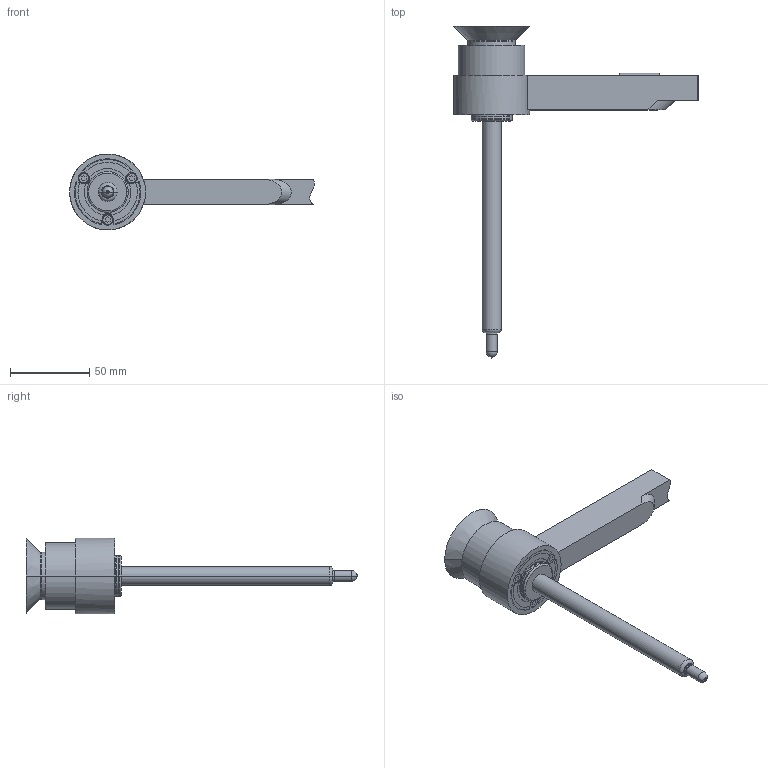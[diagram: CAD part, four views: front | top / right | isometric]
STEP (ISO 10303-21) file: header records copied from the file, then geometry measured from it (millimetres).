
FILE_DESCRIPTION((''),'2;1');
FILE_NAME('M03-160-2Z-10_ASM','2020-04-03T',('benoit'),(''),'PRO/ENGINEER BY PARAMETRIC TECHNOLOGY CORPORATION, 2007450','PRO/ENGINEER BY PARAMETRIC TECHNOLOGY CORPORATION, 2007450','');
FILE_SCHEMA(('CONFIG_CONTROL_DESIGN'));
Length unit declared in the file: millimetre
Products named in the file (12): CM03-160; PM03-F; EM03-P2; RM03-160; RA2Z-M; T2Z-32; BF03219; CAPOT-03219; 32X1_5E; VIS_CHCM4-12; M03-160-2Z-10-POCHE; M03-160-2Z-10_ASM
Assembly tree (13 placements, depth 2):
  M03-160-2Z-10_ASM
    CM03-160
    PM03-F
    EM03-P2
    RM03-160
    RA2Z-M
    T2Z-32
    BF03219
    CAPOT-03219
    32X1_5E
    VIS_CHCM4-12  x3
    M03-160-2Z-10-POCHE
Bounding box: 154.56 x 209.64 x 48 mm (x, y, z)
Volume: 202716.2 mm3; surface area: 68221.5 mm2
Topology: 13 solids, 13 shells, 481 faces, 1181 edges, 732 vertices
Faces by surface type: cylinder 173, plane 136, cone 84, torus 61, bspline 16, sphere 10, extrusion 1
Entity records: 18238 total; most frequent: CARTESIAN_POINT 7494, DIRECTION 2306, ORIENTED_EDGE 2162, EDGE_CURVE 1081, AXIS2_PLACEMENT_3D 959, VERTEX_POINT 678, CIRCLE 508, EDGE_LOOP 489
